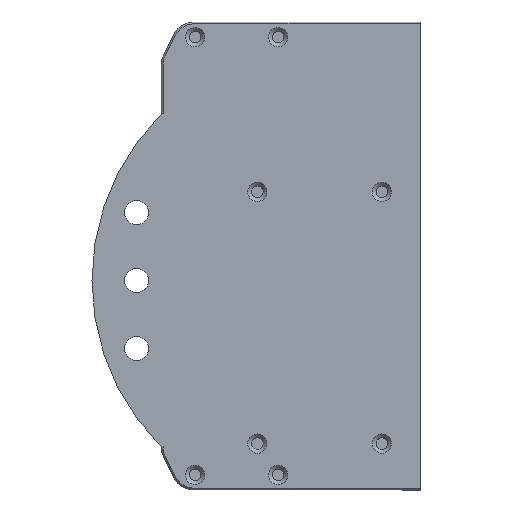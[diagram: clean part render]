
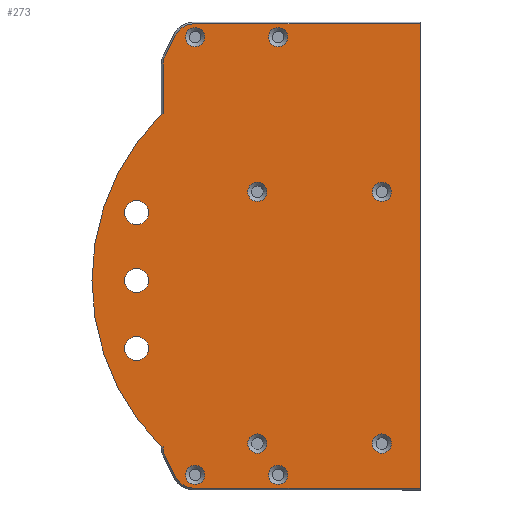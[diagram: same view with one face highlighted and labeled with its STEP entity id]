
A CAD part, front view. The second image highlights one B-rep face of the part: STEP entity #273.
In plain terms, the highlighted planar face has unit normal (0, -1, 0).
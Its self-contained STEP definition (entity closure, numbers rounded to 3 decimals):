
#273=ADVANCED_FACE('',(#1342,#1344,#1346,#1348,#1350,#1352,#1354,#1356,#1358,#1360,
#1362,#1364),#1366,.T.);
#1342=FACE_BOUND('',#1343,.T.);
#1343=EDGE_LOOP('',(#1973,#1974,#1975,#1976,#1977,#1978,#1979,#1980,#1981,#1982,
#1983,#1984,#1985));
#1344=FACE_BOUND('',#1345,.T.);
#1345=EDGE_LOOP('',(#1986));
#1346=FACE_BOUND('',#1347,.T.);
#1347=EDGE_LOOP('',(#1987));
#1348=FACE_BOUND('',#1349,.T.);
#1349=EDGE_LOOP('',(#1988));
#1350=FACE_BOUND('',#1351,.T.);
#1351=EDGE_LOOP('',(#1989));
#1352=FACE_BOUND('',#1353,.T.);
#1353=EDGE_LOOP('',(#1990));
#1354=FACE_BOUND('',#1355,.T.);
#1355=EDGE_LOOP('',(#1991));
#1356=FACE_BOUND('',#1357,.T.);
#1357=EDGE_LOOP('',(#1992));
#1358=FACE_BOUND('',#1359,.T.);
#1359=EDGE_LOOP('',(#1993));
#1360=FACE_BOUND('',#1361,.T.);
#1361=EDGE_LOOP('',(#1994));
#1362=FACE_BOUND('',#1363,.T.);
#1363=EDGE_LOOP('',(#1995));
#1364=FACE_BOUND('',#1365,.T.);
#1365=EDGE_LOOP('',(#1996));
#1366=PLANE('',#1367);
#1367=AXIS2_PLACEMENT_3D('',#1368,#1369,#1370);
#1368=CARTESIAN_POINT('',(-139.16,0.,-6.5));
#1369=DIRECTION('',(0.,-1.,0.));
#1370=DIRECTION('',(0.,0.,-1.));
#1973=ORIENTED_EDGE('',*,*,#2278,.T.);
#1974=ORIENTED_EDGE('',*,*,#2309,.F.);
#1975=ORIENTED_EDGE('',*,*,#2263,.F.);
#1976=ORIENTED_EDGE('',*,*,#2260,.F.);
#1977=ORIENTED_EDGE('',*,*,#2259,.F.);
#1978=ORIENTED_EDGE('',*,*,#2302,.F.);
#1979=ORIENTED_EDGE('',*,*,#2305,.T.);
#1980=ORIENTED_EDGE('',*,*,#2282,.F.);
#1981=ORIENTED_EDGE('',*,*,#2306,.T.);
#1982=ORIENTED_EDGE('',*,*,#2256,.F.);
#1983=ORIENTED_EDGE('',*,*,#2253,.F.);
#1984=ORIENTED_EDGE('',*,*,#2252,.F.);
#1985=ORIENTED_EDGE('',*,*,#2307,.F.);
#1986=ORIENTED_EDGE('',*,*,#2249,.F.);
#1987=ORIENTED_EDGE('',*,*,#2245,.F.);
#1988=ORIENTED_EDGE('',*,*,#2241,.F.);
#1989=ORIENTED_EDGE('',*,*,#2233,.F.);
#1990=ORIENTED_EDGE('',*,*,#2231,.F.);
#1991=ORIENTED_EDGE('',*,*,#2237,.F.);
#1992=ORIENTED_EDGE('',*,*,#2243,.F.);
#1993=ORIENTED_EDGE('',*,*,#2247,.F.);
#1994=ORIENTED_EDGE('',*,*,#2291,.F.);
#1995=ORIENTED_EDGE('',*,*,#2289,.F.);
#1996=ORIENTED_EDGE('',*,*,#2287,.F.);
#2231=EDGE_CURVE('',#2715,#2715,#2716,.T.);
#2233=EDGE_CURVE('',#2719,#2719,#2720,.T.);
#2237=EDGE_CURVE('',#2727,#2727,#2728,.T.);
#2241=EDGE_CURVE('',#2735,#2735,#2736,.T.);
#2243=EDGE_CURVE('',#2739,#2739,#2740,.T.);
#2245=EDGE_CURVE('',#2743,#2743,#2744,.T.);
#2247=EDGE_CURVE('',#2747,#2747,#2748,.T.);
#2249=EDGE_CURVE('',#2751,#2751,#2752,.T.);
#2252=EDGE_CURVE('',#2755,#2753,#2757,.T.);
#2253=EDGE_CURVE('',#2753,#2758,#2759,.T.);
#2256=EDGE_CURVE('',#2758,#2761,#2763,.T.);
#2259=EDGE_CURVE('',#2766,#2764,#2768,.T.);
#2260=EDGE_CURVE('',#2764,#2769,#2770,.T.);
#2263=EDGE_CURVE('',#2769,#2772,#2774,.T.);
#2278=EDGE_CURVE('',#2796,#2794,#2797,.T.);
#2282=EDGE_CURVE('',#2802,#2803,#2804,.T.);
#2287=EDGE_CURVE('',#2810,#2810,#2811,.T.);
#2289=EDGE_CURVE('',#2814,#2814,#2815,.T.);
#2291=EDGE_CURVE('',#2818,#2818,#2819,.T.);
#2302=EDGE_CURVE('',#2832,#2766,#2834,.T.);
#2305=EDGE_CURVE('',#2832,#2803,#2837,.T.);
#2306=EDGE_CURVE('',#2802,#2761,#2838,.T.);
#2307=EDGE_CURVE('',#2796,#2755,#2839,.T.);
#2309=EDGE_CURVE('',#2772,#2794,#2841,.T.);
#2715=VERTEX_POINT('',#3804);
#2716=CIRCLE('',#3805,2.55);
#2719=VERTEX_POINT('',#3814);
#2720=CIRCLE('',#3815,2.55);
#2727=VERTEX_POINT('',#3834);
#2728=CIRCLE('',#3835,2.55);
#2735=VERTEX_POINT('',#3854);
#2736=CIRCLE('',#3855,2.55);
#2739=VERTEX_POINT('',#3864);
#2740=CIRCLE('',#3865,2.55);
#2743=VERTEX_POINT('',#3874);
#2744=CIRCLE('',#3875,2.55);
#2747=VERTEX_POINT('',#3884);
#2748=CIRCLE('',#3885,2.55);
#2751=VERTEX_POINT('',#3894);
#2752=CIRCLE('',#3895,2.55);
#2753=VERTEX_POINT('',#3899);
#2755=VERTEX_POINT('',#3903);
#2757=CIRCLE('',#3907,5.5);
#2758=VERTEX_POINT('',#3911);
#2759=LINE('',#3912,#3913);
#2761=VERTEX_POINT('',#3918);
#2763=CIRCLE('',#3922,5.5);
#2764=VERTEX_POINT('',#3926);
#2766=VERTEX_POINT('',#3930);
#2768=CIRCLE('',#3934,5.5);
#2769=VERTEX_POINT('',#3938);
#2770=LINE('',#3939,#3940);
#2772=VERTEX_POINT('',#3945);
#2774=CIRCLE('',#3949,5.5);
#2794=VERTEX_POINT('',#4002);
#2796=VERTEX_POINT('',#4006);
#2797=LINE('',#4007,#4008);
#2802=VERTEX_POINT('',#4020);
#2803=VERTEX_POINT('',#4021);
#2804=CIRCLE('',#4022,62.);
#2810=VERTEX_POINT('',#4041);
#2811=CIRCLE('',#4042,3.2);
#2814=VERTEX_POINT('',#4051);
#2815=CIRCLE('',#4052,3.2);
#2818=VERTEX_POINT('',#4061);
#2819=CIRCLE('',#4062,3.2);
#2832=VERTEX_POINT('',#4096);
#2834=LINE('',#4100,#4101);
#2837=LINE('',#4109,#4110);
#2838=LINE('',#4112,#4113);
#2839=LINE('',#4115,#4116);
#2841=LINE('',#4121,#4122);
#3804=CARTESIAN_POINT('',(-96.45,0.,58.));
#3805=AXIS2_PLACEMENT_3D('',#3806,#3807,#3808);
#3806=CARTESIAN_POINT('',(-99.,0.,58.));
#3807=DIRECTION('',(0.,-1.,0.));
#3808=DIRECTION('',(1.,0.,0.));
#3814=CARTESIAN_POINT('',(-118.45,0.,58.));
#3815=AXIS2_PLACEMENT_3D('',#3816,#3817,#3818);
#3816=CARTESIAN_POINT('',(-121.,0.,58.));
#3817=DIRECTION('',(0.,-1.,0.));
#3818=DIRECTION('',(1.,0.,0.));
#3834=CARTESIAN_POINT('',(-101.95,0.,17.));
#3835=AXIS2_PLACEMENT_3D('',#3836,#3837,#3838);
#3836=CARTESIAN_POINT('',(-104.5,0.,17.));
#3837=DIRECTION('',(0.,-1.,0.));
#3838=DIRECTION('',(1.,0.,0.));
#3854=CARTESIAN_POINT('',(-68.95,0.,17.));
#3855=AXIS2_PLACEMENT_3D('',#3856,#3857,#3858);
#3856=CARTESIAN_POINT('',(-71.5,0.,17.));
#3857=DIRECTION('',(0.,-1.,0.));
#3858=DIRECTION('',(1.,0.,0.));
#3864=CARTESIAN_POINT('',(-101.95,0.,-49.7));
#3865=AXIS2_PLACEMENT_3D('',#3866,#3867,#3868);
#3866=CARTESIAN_POINT('',(-104.5,0.,-49.7));
#3867=DIRECTION('',(0.,-1.,0.));
#3868=DIRECTION('',(1.,0.,0.));
#3874=CARTESIAN_POINT('',(-118.45,0.,-58.));
#3875=AXIS2_PLACEMENT_3D('',#3876,#3877,#3878);
#3876=CARTESIAN_POINT('',(-121.,0.,-58.));
#3877=DIRECTION('',(0.,-1.,0.));
#3878=DIRECTION('',(1.,0.,0.));
#3884=CARTESIAN_POINT('',(-96.45,0.,-58.));
#3885=AXIS2_PLACEMENT_3D('',#3886,#3887,#3888);
#3886=CARTESIAN_POINT('',(-99.,0.,-58.));
#3887=DIRECTION('',(0.,-1.,0.));
#3888=DIRECTION('',(1.,0.,0.));
#3894=CARTESIAN_POINT('',(-68.95,0.,-49.7));
#3895=AXIS2_PLACEMENT_3D('',#3896,#3897,#3898);
#3896=CARTESIAN_POINT('',(-71.5,0.,-49.7));
#3897=DIRECTION('',(0.,-1.,0.));
#3898=DIRECTION('',(1.,0.,0.));
#3899=CARTESIAN_POINT('',(-126.211,0.,-58.46));
#3903=CARTESIAN_POINT('',(-121.292,0.,-61.5));
#3907=AXIS2_PLACEMENT_3D('',#3908,#3909,#3910);
#3908=CARTESIAN_POINT('',(-121.292,0.,-56.));
#3909=DIRECTION('',(0.,1.,0.));
#3910=DIRECTION('',(0.,0.,-1.));
#3911=CARTESIAN_POINT('',(-128.919,0.,-53.043));
#3912=CARTESIAN_POINT('',(-126.211,0.,-58.46));
#3913=VECTOR('',#3914,1.);
#3914=DIRECTION('',(-0.447,0.,0.894));
#3918=CARTESIAN_POINT('',(-129.5,0.,-50.584));
#3922=AXIS2_PLACEMENT_3D('',#3923,#3924,#3925);
#3923=CARTESIAN_POINT('',(-124.,0.,-50.584));
#3924=DIRECTION('',(0.,1.,0.));
#3925=DIRECTION('',(-0.894,0.,-0.447));
#3926=CARTESIAN_POINT('',(-128.919,0.,53.043));
#3930=CARTESIAN_POINT('',(-129.5,0.,50.584));
#3934=AXIS2_PLACEMENT_3D('',#3935,#3936,#3937);
#3935=CARTESIAN_POINT('',(-124.,0.,50.584));
#3936=DIRECTION('',(0.,1.,0.));
#3937=DIRECTION('',(-1.,0.,0.));
#3938=CARTESIAN_POINT('',(-126.211,0.,58.46));
#3939=CARTESIAN_POINT('',(-128.919,0.,53.043));
#3940=VECTOR('',#3941,1.);
#3941=DIRECTION('',(0.447,0.,0.894));
#3945=CARTESIAN_POINT('',(-121.292,0.,61.5));
#3949=AXIS2_PLACEMENT_3D('',#3950,#3951,#3952);
#3950=CARTESIAN_POINT('',(-121.292,0.,56.));
#3951=DIRECTION('',(0.,1.,0.));
#3952=DIRECTION('',(-0.894,0.,0.447));
#4002=CARTESIAN_POINT('',(-61.4,0.,61.5));
#4006=CARTESIAN_POINT('',(-61.4,0.,-61.5));
#4007=CARTESIAN_POINT('',(-61.4,0.,-61.5));
#4008=VECTOR('',#4009,1.);
#4009=DIRECTION('',(0.,0.,1.));
#4020=CARTESIAN_POINT('',(-130.,0.,-50.5));
#4021=CARTESIAN_POINT('',(-130.,0.,37.5));
#4022=AXIS2_PLACEMENT_3D('',#4023,#4024,#4025);
#4023=CARTESIAN_POINT('',(-86.319,0.,-6.5));
#4024=DIRECTION('',(0.,1.,0.));
#4025=DIRECTION('',(-0.705,0.,-0.71));
#4041=CARTESIAN_POINT('',(-133.309,0.,-24.5));
#4042=AXIS2_PLACEMENT_3D('',#4043,#4044,#4045);
#4043=CARTESIAN_POINT('',(-136.509,0.,-24.5));
#4044=DIRECTION('',(0.,-1.,0.));
#4045=DIRECTION('',(1.,0.,0.));
#4051=CARTESIAN_POINT('',(-133.309,0.,11.5));
#4052=AXIS2_PLACEMENT_3D('',#4053,#4054,#4055);
#4053=CARTESIAN_POINT('',(-136.509,0.,11.5));
#4054=DIRECTION('',(0.,-1.,0.));
#4055=DIRECTION('',(1.,0.,0.));
#4061=CARTESIAN_POINT('',(-133.309,0.,-6.5));
#4062=AXIS2_PLACEMENT_3D('',#4063,#4064,#4065);
#4063=CARTESIAN_POINT('',(-136.509,0.,-6.5));
#4064=DIRECTION('',(0.,-1.,0.));
#4065=DIRECTION('',(1.,0.,0.));
#4096=CARTESIAN_POINT('',(-129.5,0.,37.757));
#4100=CARTESIAN_POINT('',(-129.5,0.,37.757));
#4101=VECTOR('',#4102,1.);
#4102=DIRECTION('',(0.,0.,1.));
#4109=CARTESIAN_POINT('',(-129.5,0.,37.757));
#4110=VECTOR('',#4111,1.);
#4111=DIRECTION('',(-0.889,0.,-0.457));
#4112=CARTESIAN_POINT('',(-130.,0.,-50.5));
#4113=VECTOR('',#4114,1.);
#4114=DIRECTION('',(0.986,0.,-0.165));
#4115=CARTESIAN_POINT('',(-61.4,0.,-61.5));
#4116=VECTOR('',#4117,1.);
#4117=DIRECTION('',(-1.,0.,0.));
#4121=CARTESIAN_POINT('',(-121.292,0.,61.5));
#4122=VECTOR('',#4123,1.);
#4123=DIRECTION('',(1.,0.,0.));
